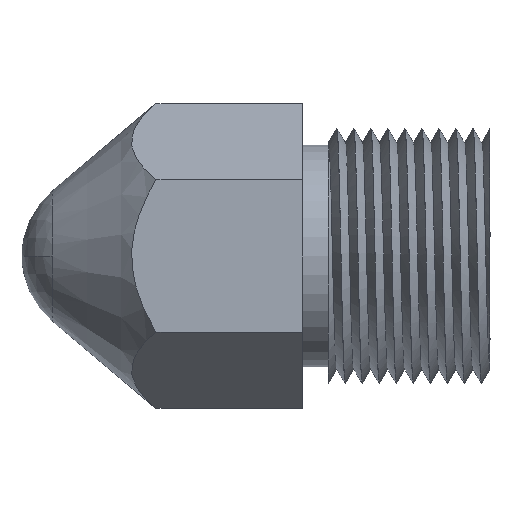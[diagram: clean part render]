
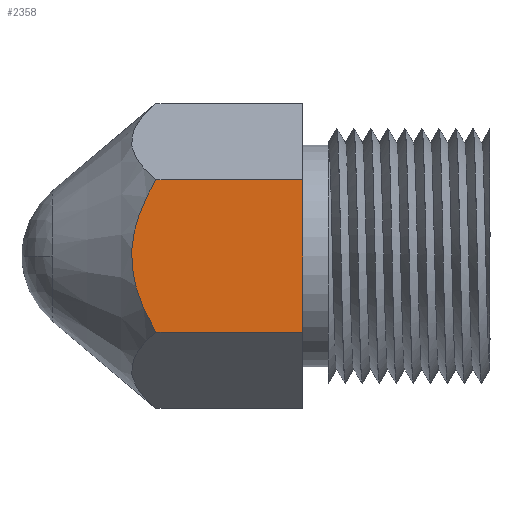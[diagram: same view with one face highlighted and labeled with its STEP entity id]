
A CAD part, front view. The second image highlights one B-rep face of the part: STEP entity #2358.
In plain terms, the highlighted planar face has unit normal (0, -1, 0).
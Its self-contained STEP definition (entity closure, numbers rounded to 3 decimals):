
#5 = EDGE_CURVE ( 'NONE', #503, #1010, #1863, .T. ) ;
#29 = AXIS2_PLACEMENT_3D ( 'NONE', #1586, #3089, #2339 ) ;
#56 = VECTOR ( 'NONE', #2379, 1000. ) ;
#80 = CARTESIAN_POINT ( 'NONE',  ( 14.99, -15.5, -7.578 ) ) ;
#87 = CARTESIAN_POINT ( 'NONE',  ( 14.989, -15.5, 7.576 ) ) ;
#299 = EDGE_CURVE ( 'NONE', #2860, #503, #1576, .T. ) ;
#326 = CARTESIAN_POINT ( 'NONE',  ( 13.488, -15.5, 3.91 ) ) ;
#345 = CARTESIAN_POINT ( 'NONE',  ( 13.285, -15.5, 3.141 ) ) ;
#348 = VERTEX_POINT ( 'NONE', #1507 ) ;
#379 = DIRECTION ( 'NONE',  ( 0., 0., 1. ) ) ;
#503 = VERTEX_POINT ( 'NONE', #653 ) ;
#543 = FACE_OUTER_BOUND ( 'NONE', #1915, .T. ) ;
#567 = CARTESIAN_POINT ( 'NONE',  ( 15.773, -15.5, -8.949 ) ) ;
#571 = PLANE ( 'NONE',  #29 ) ;
#581 = CARTESIAN_POINT ( 'NONE',  ( 13.994, -15.5, 5.424 ) ) ;
#653 = CARTESIAN_POINT ( 'NONE',  ( 33., -15.5, -8.949 ) ) ;
#674 = DIRECTION ( 'NONE',  ( 1., 0., 0. ) ) ;
#820 = CARTESIAN_POINT ( 'NONE',  ( 13.473, -15.5, -3.906 ) ) ;
#831 = CARTESIAN_POINT ( 'NONE',  ( 14.302, -15.5, 6.153 ) ) ;
#841 = CARTESIAN_POINT ( 'NONE',  ( 13.859, -15.5, -5.031 ) ) ;
#962 = ORIENTED_EDGE ( 'NONE', *, *, #5, .T. ) ;
#1010 = VERTEX_POINT ( 'NONE', #2565 ) ;
#1020 = VECTOR ( 'NONE', #379, 1000. ) ;
#1067 = CARTESIAN_POINT ( 'NONE',  ( 13.268, -15.5, -3.142 ) ) ;
#1079 = ORIENTED_EDGE ( 'NONE', *, *, #299, .T. ) ;
#1090 = CARTESIAN_POINT ( 'NONE',  ( 15.367, -15.5, 8.269 ) ) ;
#1326 = CARTESIAN_POINT ( 'NONE',  ( 13.058, -15.5, -1.969 ) ) ;
#1342 = CARTESIAN_POINT ( 'NONE',  ( 13.004, -15.5, -1.571 ) ) ;
#1386 = CARTESIAN_POINT ( 'NONE',  ( 33., -15.5, 0. ) ) ;
#1405 = VECTOR ( 'NONE', #674, 1000. ) ;
#1507 = CARTESIAN_POINT ( 'NONE',  ( 15.773, -15.5, 8.949 ) ) ;
#1576 = LINE ( 'NONE', #1956, #1405 ) ;
#1586 = CARTESIAN_POINT ( 'NONE',  ( 11., -15.5, -8.949 ) ) ;
#1594 = CARTESIAN_POINT ( 'NONE',  ( 12.914, -15.5, -0.376 ) ) ;
#1613 = CARTESIAN_POINT ( 'NONE',  ( 14.471, -15.5, -6.503 ) ) ;
#1848 = CARTESIAN_POINT ( 'NONE',  ( 12.99, -15.5, 1.591 ) ) ;
#1860 = CARTESIAN_POINT ( 'NONE',  ( 11., -15.5, 8.949 ) ) ;
#1863 = LINE ( 'NONE', #1386, #1020 ) ;
#1869 = CARTESIAN_POINT ( 'NONE',  ( 14., -15.5, -5.402 ) ) ;
#1915 = EDGE_LOOP ( 'NONE', ( #962, #2875, #2248, #1079 ) ) ;
#1956 = CARTESIAN_POINT ( 'NONE',  ( 11., -15.5, -8.949 ) ) ;
#1977 = CARTESIAN_POINT ( 'NONE',  ( 15.773, -15.5, -8.949 ) ) ;
#2105 = CARTESIAN_POINT ( 'NONE',  ( 13.606, -15.5, 4.294 ) ) ;
#2117 = CARTESIAN_POINT ( 'NONE',  ( 12.916, -15.5, 0.809 ) ) ;
#2163 = LINE ( 'NONE', #1860, #56 ) ;
#2248 = ORIENTED_EDGE ( 'NONE', *, *, #3168, .F. ) ;
#2339 = DIRECTION ( 'NONE',  ( 0., 0., 1. ) ) ;
#2345 = CARTESIAN_POINT ( 'NONE',  ( 14.306, -15.5, -6.138 ) ) ;
#2358 = ADVANCED_FACE ( 'NONE', ( #543 ), #571, .F. ) ;
#2373 = CARTESIAN_POINT ( 'NONE',  ( 15.369, -15.5, -8.272 ) ) ;
#2379 = DIRECTION ( 'NONE',  ( 1., 0., 0. ) ) ;
#2565 = CARTESIAN_POINT ( 'NONE',  ( 33., -15.5, 8.949 ) ) ;
#2622 = CARTESIAN_POINT ( 'NONE',  ( 13.199, -15.5, 2.755 ) ) ;
#2860 = VERTEX_POINT ( 'NONE', #1977 ) ;
#2873 = CARTESIAN_POINT ( 'NONE',  ( 15.773, -15.5, 8.949 ) ) ;
#2875 = ORIENTED_EDGE ( 'NONE', *, *, #3211, .F. ) ;
#3018 = B_SPLINE_CURVE_WITH_KNOTS ( 'NONE', 3,
 ( #567, #2373, #80, #1613, #2345, #1869, #841, #820, #1067, #1326, #1342, #3111, #1594, #2117, #1848, #2622, #345, #326, #2105, #581, #831, #87, #1090, #2873 ),
 .UNSPECIFIED., .F., .F.,
 ( 4, 2, 2, 2, 2, 2, 2, 2, 2, 2, 2, 4 ),
 ( 0.01, 0.012, 0.013, 0.014, 0.017, 0.018, 0.019, 0.021, 0.023, 0.024, 0.026, 0.028 ),
 .UNSPECIFIED. ) ;
#3089 = DIRECTION ( 'NONE',  ( 0., 1., 0. ) ) ;
#3111 = CARTESIAN_POINT ( 'NONE',  ( 12.932, -15.5, -0.773 ) ) ;
#3168 = EDGE_CURVE ( 'NONE', #2860, #348, #3018, .T. ) ;
#3211 = EDGE_CURVE ( 'NONE', #348, #1010, #2163, .T. ) ;
